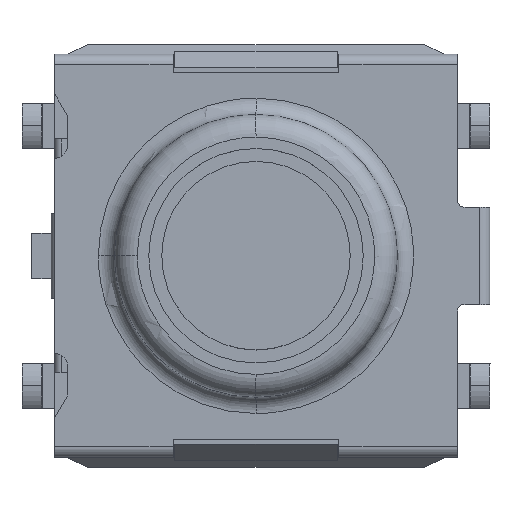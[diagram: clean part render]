
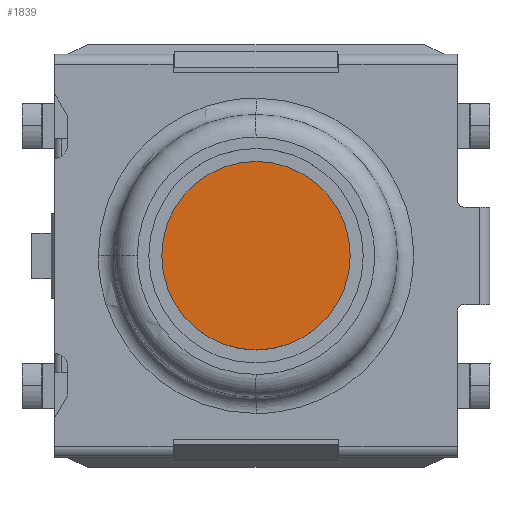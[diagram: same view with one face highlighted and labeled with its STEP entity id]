
A CAD part, top view. The second image highlights one B-rep face of the part: STEP entity #1839.
In plain terms, the highlighted planar face has unit normal (0, 0, 1).
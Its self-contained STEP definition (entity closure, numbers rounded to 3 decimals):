
#1839 = ADVANCED_FACE ( 'NONE', ( #7920 ), #7818, .T. ) ;
#1840 = EDGE_LOOP ( 'NONE', ( #1853, #2318, #2114 ) ) ;
#1853 = ORIENTED_EDGE ( 'NONE', *, *, #1854, .F. ) ;
#1854 = EDGE_CURVE ( 'NONE', #1855, #2317, #7796, .T. ) ;
#1855 = VERTEX_POINT ( 'NONE', #7883 ) ;
#2114 = ORIENTED_EDGE ( 'NONE', *, *, #2115, .F. ) ;
#2115 = EDGE_CURVE ( 'NONE', #2317, #2320, #8776, .T. ) ;
#2317 = VERTEX_POINT ( 'NONE', #9294 ) ;
#2318 = ORIENTED_EDGE ( 'NONE', *, *, #2319, .F. ) ;
#2319 = EDGE_CURVE ( 'NONE', #2320, #1855, #9293, .T. ) ;
#2320 = VERTEX_POINT ( 'NONE', #9288 ) ;
#7795 = AXIS2_PLACEMENT_3D ( 'NONE', #7800, #7885, #7884 ) ;
#7796 = CIRCLE ( 'NONE', #7795, 1.45 ) ;
#7800 = CARTESIAN_POINT ( 'NONE',  ( 0., 0., 3.1 ) ) ;
#7814 = DIRECTION ( 'NONE',  ( 1., 0., 0. ) ) ;
#7815 = DIRECTION ( 'NONE',  ( 0., 0., 1. ) ) ;
#7816 = CARTESIAN_POINT ( 'NONE',  ( 0., 0., 3.1 ) ) ;
#7817 = AXIS2_PLACEMENT_3D ( 'NONE', #7816, #7815, #7814 ) ;
#7818 = PLANE ( 'NONE',  #7817 ) ;
#7883 = CARTESIAN_POINT ( 'NONE',  ( 0., -1.45, 3.1 ) ) ;
#7884 = DIRECTION ( 'NONE',  ( -1., 0., 0. ) ) ;
#7885 = DIRECTION ( 'NONE',  ( 0., 0., -1. ) ) ;
#7920 = FACE_OUTER_BOUND ( 'NONE', #1840, .T. ) ;
#8772 = DIRECTION ( 'NONE',  ( -1., 0., 0. ) ) ;
#8773 = DIRECTION ( 'NONE',  ( 0., 0., -1. ) ) ;
#8774 = CARTESIAN_POINT ( 'NONE',  ( 0., 0., 3.1 ) ) ;
#8775 = AXIS2_PLACEMENT_3D ( 'NONE', #8774, #8773, #8772 ) ;
#8776 = CIRCLE ( 'NONE', #8775, 1.45 ) ;
#9288 = CARTESIAN_POINT ( 'NONE',  ( 0., 1.45, 3.1 ) ) ;
#9289 = DIRECTION ( 'NONE',  ( -1., 0., 0. ) ) ;
#9290 = DIRECTION ( 'NONE',  ( 0., 0., -1. ) ) ;
#9291 = CARTESIAN_POINT ( 'NONE',  ( 0., 0., 3.1 ) ) ;
#9292 = AXIS2_PLACEMENT_3D ( 'NONE', #9291, #9290, #9289 ) ;
#9293 = CIRCLE ( 'NONE', #9292, 1.45 ) ;
#9294 = CARTESIAN_POINT ( 'NONE',  ( -1.45, 0., 3.1 ) ) ;
